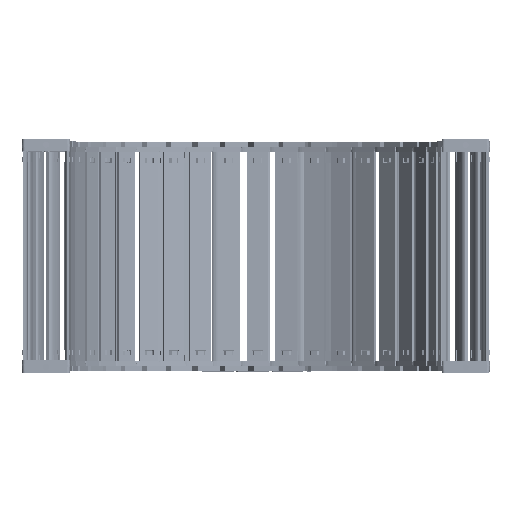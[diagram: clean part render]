
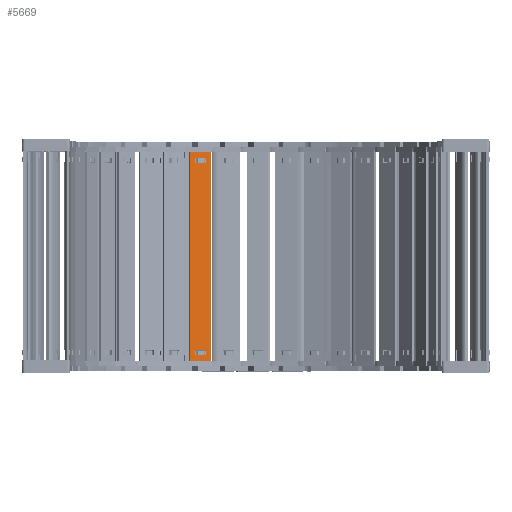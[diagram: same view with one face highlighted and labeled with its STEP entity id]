
A CAD part, top view. The second image highlights one B-rep face of the part: STEP entity #5669.
In plain terms, the highlighted planar face has unit normal (0.279, 0, 0.96) as drawn and (0, 1, 0) by its records, which use the part's own axes.
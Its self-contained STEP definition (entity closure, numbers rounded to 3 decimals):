
#5089=DIRECTION('',(0.,0.,1.));
#5090=VECTOR('',#5089,15.8);
#5091=CARTESIAN_POINT('',(135.74,1.5,-7.9));
#5092=LINE('',#5091,#5090);
#5093=DIRECTION('',(-1.,0.,0.));
#5094=VECTOR('',#5093,150.5);
#5095=CARTESIAN_POINT('',(135.74,1.5,7.9));
#5096=LINE('',#5095,#5094);
#5097=DIRECTION('',(0.,0.,-1.));
#5098=VECTOR('',#5097,15.8);
#5099=CARTESIAN_POINT('',(-14.76,1.5,7.9));
#5100=LINE('',#5099,#5098);
#5101=DIRECTION('',(1.,0.,0.));
#5102=VECTOR('',#5101,3.648);
#5103=CARTESIAN_POINT('',(128.122,1.5,4.075));
#5104=LINE('',#5103,#5102);
#5105=DIRECTION('',(0.,0.,-1.));
#5106=VECTOR('',#5105,8.15);
#5107=CARTESIAN_POINT('',(131.77,1.5,4.075));
#5108=LINE('',#5107,#5106);
#5109=DIRECTION('',(-1.,0.,0.));
#5110=VECTOR('',#5109,3.648);
#5111=CARTESIAN_POINT('',(131.77,1.5,-4.075));
#5112=LINE('',#5111,#5110);
#5113=DIRECTION('',(0.,0.,-1.));
#5114=VECTOR('',#5113,8.15);
#5115=CARTESIAN_POINT('',(-7.142,1.5,4.075));
#5116=LINE('',#5115,#5114);
#5117=DIRECTION('',(-1.,0.,0.));
#5118=VECTOR('',#5117,3.648);
#5119=CARTESIAN_POINT('',(-7.142,1.5,-4.075));
#5120=LINE('',#5119,#5118);
#5121=DIRECTION('',(0.,0.,1.));
#5122=VECTOR('',#5121,8.15);
#5123=CARTESIAN_POINT('',(-10.79,1.5,-4.075));
#5124=LINE('',#5123,#5122);
#5125=DIRECTION('',(1.,0.,0.));
#5126=VECTOR('',#5125,3.648);
#5127=CARTESIAN_POINT('',(-10.79,1.5,4.075));
#5128=LINE('',#5127,#5126);
#5133=DIRECTION('',(-1.,0.,0.));
#5134=VECTOR('',#5133,150.5);
#5135=CARTESIAN_POINT('',(135.74,1.5,-7.9));
#5136=LINE('',#5135,#5134);
#5254=DIRECTION('',(0.,0.,-1.));
#5255=VECTOR('',#5254,8.15);
#5256=CARTESIAN_POINT('',(128.122,1.5,4.075));
#5257=LINE('',#5256,#5255);
#5439=CARTESIAN_POINT('',(131.77,1.5,4.075));
#5440=VERTEX_POINT('',#5439);
#5441=CARTESIAN_POINT('',(128.122,1.5,4.075));
#5442=VERTEX_POINT('',#5441);
#5483=CARTESIAN_POINT('',(128.122,1.5,-4.075));
#5484=VERTEX_POINT('',#5483);
#5485=CARTESIAN_POINT('',(131.77,1.5,-4.075));
#5486=VERTEX_POINT('',#5485);
#5487=CARTESIAN_POINT('',(135.74,1.5,7.9));
#5489=VERTEX_POINT('',#5487);
#5491=CARTESIAN_POINT('',(135.74,1.5,-7.9));
#5492=VERTEX_POINT('',#5491);
#5515=CARTESIAN_POINT('',(-7.142,1.5,4.075));
#5516=CARTESIAN_POINT('',(-7.142,1.5,-4.075));
#5517=VERTEX_POINT('',#5515);
#5518=VERTEX_POINT('',#5516);
#5519=CARTESIAN_POINT('',(-10.79,1.5,-4.075));
#5520=VERTEX_POINT('',#5519);
#5521=CARTESIAN_POINT('',(-10.79,1.5,4.075));
#5522=VERTEX_POINT('',#5521);
#5523=CARTESIAN_POINT('',(-14.76,1.5,7.9));
#5524=VERTEX_POINT('',#5523);
#5527=CARTESIAN_POINT('',(-14.76,1.5,-7.9));
#5528=VERTEX_POINT('',#5527);
#5638=CARTESIAN_POINT('',(167.48,1.5,10.061));
#5639=DIRECTION('',(0.,-1.,0.));
#5640=DIRECTION('',(0.,0.,-1.));
#5641=AXIS2_PLACEMENT_3D('',#5638,#5639,#5640);
#5642=PLANE('',#5641);
#5643=ORIENTED_EDGE('',*,*,#5577,.T.);
#5644=ORIENTED_EDGE('',*,*,#5603,.T.);
#5645=ORIENTED_EDGE('',*,*,#5616,.T.);
#5647=ORIENTED_EDGE('',*,*,#5646,.F.);
#5648=EDGE_LOOP('',(#5643,#5644,#5645,#5647));
#5649=FACE_OUTER_BOUND('',#5648,.F.);
#5651=ORIENTED_EDGE('',*,*,#5650,.F.);
#5652=ORIENTED_EDGE('',*,*,#5540,.T.);
#5654=ORIENTED_EDGE('',*,*,#5653,.T.);
#5656=ORIENTED_EDGE('',*,*,#5655,.T.);
#5657=EDGE_LOOP('',(#5651,#5652,#5654,#5656));
#5658=FACE_BOUND('',#5657,.F.);
#5660=ORIENTED_EDGE('',*,*,#5659,.T.);
#5662=ORIENTED_EDGE('',*,*,#5661,.T.);
#5664=ORIENTED_EDGE('',*,*,#5663,.T.);
#5666=ORIENTED_EDGE('',*,*,#5665,.T.);
#5667=EDGE_LOOP('',(#5660,#5662,#5664,#5666));
#5668=FACE_BOUND('',#5667,.F.);
#5669=ADVANCED_FACE('',(#5649,#5658,#5668),#5642,.F.);
#5540=EDGE_CURVE('',#5442,#5440,#5104,.T.);
#5577=EDGE_CURVE('',#5492,#5489,#5092,.T.);
#5603=EDGE_CURVE('',#5489,#5524,#5096,.T.);
#5616=EDGE_CURVE('',#5524,#5528,#5100,.T.);
#5646=EDGE_CURVE('',#5492,#5528,#5136,.T.);
#5650=EDGE_CURVE('',#5442,#5484,#5257,.T.);
#5653=EDGE_CURVE('',#5440,#5486,#5108,.T.);
#5655=EDGE_CURVE('',#5486,#5484,#5112,.T.);
#5659=EDGE_CURVE('',#5517,#5518,#5116,.T.);
#5661=EDGE_CURVE('',#5518,#5520,#5120,.T.);
#5663=EDGE_CURVE('',#5520,#5522,#5124,.T.);
#5665=EDGE_CURVE('',#5522,#5517,#5128,.T.);
